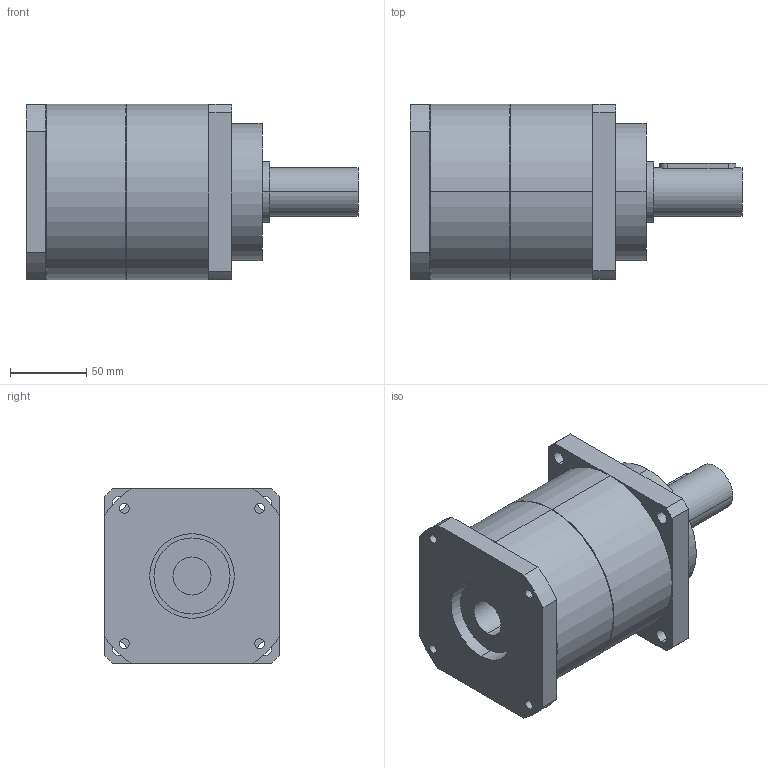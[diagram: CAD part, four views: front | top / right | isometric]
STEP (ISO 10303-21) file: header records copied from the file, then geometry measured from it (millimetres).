
FILE_DESCRIPTION(('CoCreate Modeling STEP Export'),'2;1');
FILE_NAME('GPT120_ig-3-4-5-7-10_32_B5A_25_P01.stp','2015-02-04T17:00:06',(''),(''),'CoCreate Modeling STEP processor for AP214 (Solid Model)','CoCreate Modeling 16.00C 25-Feb-2009 (C) Parametric Technology GmbH','');
FILE_SCHEMA(('AUTOMOTIVE_DESIGN { 1 0 10303 214 1 1 1 1 }'));
Length unit declared in the file: millimetre
Products named in the file (2): GPT120_ig-3-4-5-7-10_32_B5A_25_P01
Assembly tree (1 placements, depth 2):
  GPT120_ig-3-4-5-7-10_32_B5A_25_P01
    GPT120_ig-3-4-5-7-10_32_B5A_25_P01
Bounding box: 218 x 115 x 115 mm (x, y, z)
Volume: 1601891.4 mm3; surface area: 105411.8 mm2
Topology: 1 solids, 1 shells, 74 faces, 195 edges, 132 vertices
Faces by surface type: cylinder 44, plane 26, cone 4
Entity records: 2488 total; most frequent: CARTESIAN_POINT 746, ORIENTED_EDGE 390, DIRECTION 310, EDGE_CURVE 195, VERTEX_POINT 132, AXIS2_PLACEMENT_3D 114, EDGE_LOOP 99, VECTOR 82
